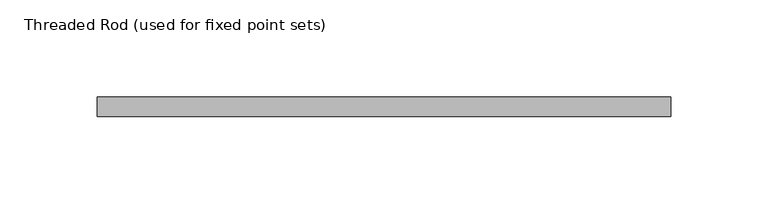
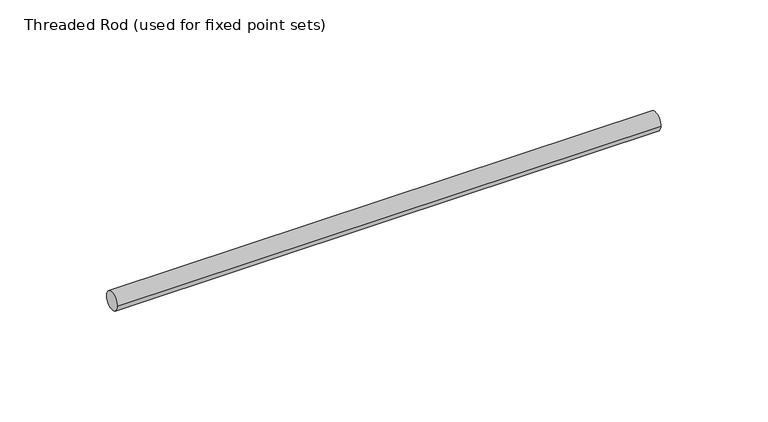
"""IFC4 building model written with IfcOpenShell, lengths in millimetres: valve geometry, Superfix Threaded Rod (used for fixed point sets) : Threaded Rod (used for fixed point sets)."""

from ifc_helpers import new_model, si_unit, point, frame, origin, origin_2d, place, context, project, spatial, circle_curve, trimmed, segment, composite_curve, outline, extrude, source, transform, mapped, element, save


def threaded_rod_used_for_fixed_point_sets_5459f8bc(model_context):
    return source(origin(), model_context, "Body", "SweptSolid", [
        extrude(outline(composite_curve([segment(trimmed(circle_curve(origin_2d(), 5.0), [point((-5.0, 0.0))], [point((5.0, 0.0))], False, "CARTESIAN"), True, "CONTINUOUS"), segment(trimmed(circle_curve(origin_2d(), 5.0), [point((5.0, 0.0))], [point((-5.0, 0.0))], False, "CARTESIAN"), True, "CONTINUOUS")], self_intersect=False)), frame((-20.0, 0.0, 0.0), z_axis=(1.0, 0.0, 0.0), x_axis=(0.0, 1.0, 0.0)), (0.0, 0.0, 1.0), 294.2),
    ])


if __name__ == "__main__":
    model = new_model("IFC4")
    model_context = context("Model", 3, world=origin())
    ifc_project = project(units=[si_unit("LENGTHUNIT", "METRE", prefix="MILLI")], contexts=[model_context])
    site = spatial("IfcSite", under=ifc_project)
    building = spatial("IfcBuilding", under=site)
    placement = place(None, origin())
    threaded_rod_used_for_fixed_point_sets_shape = threaded_rod_used_for_fixed_point_sets_5459f8bc(model_context)
    element("IfcValve", 1, ObjectType="Superfix Threaded Rod (used for fixed point sets) : Threaded Rod (used for fixed point sets)", at=placement, inside=building, context=model_context, shape_type="MappedRepresentation", body=[
        mapped(threaded_rod_used_for_fixed_point_sets_shape, transform((0.0, 0.0, 0.0), x_axis=(1.0, 0.0, 0.0), y_axis=(0.0, 1.0, 0.0), z_axis=(0.0, 0.0, 1.0))),
    ])
    save(model, "model.ifc")
